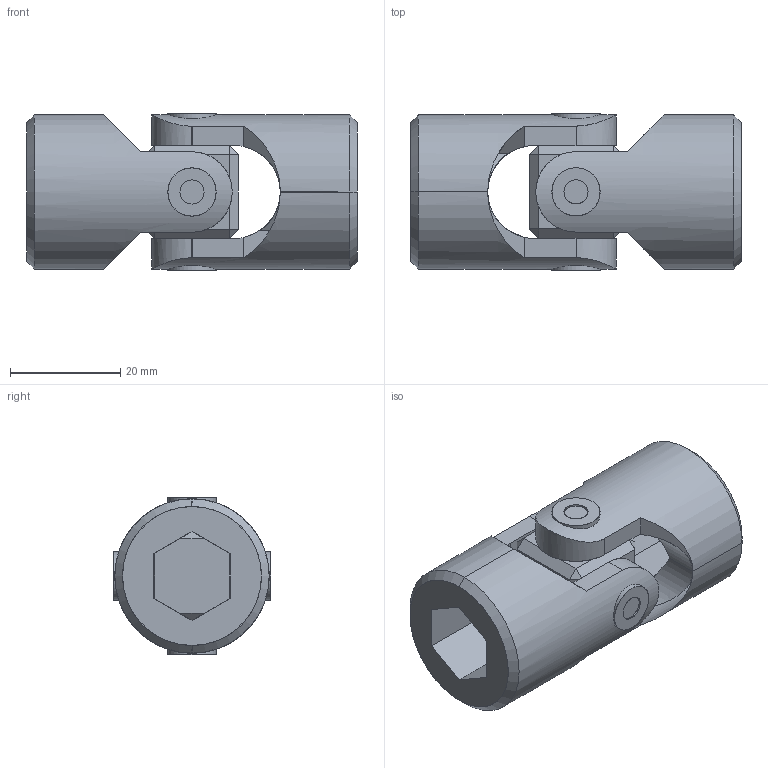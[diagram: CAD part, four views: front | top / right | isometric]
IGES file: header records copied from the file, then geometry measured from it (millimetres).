
Start section: SolidWorks IGES file using analytic representation for surfaces
Global section: file name: C:\Users\IanO\Desktop\R3690_v2\R3690_v2_20231020_IGES\R3690.014-HB.igs; native system: SolidWorks 2019; preprocessor: SolidWorks 2019; author: IanO; date: 231020.152715; units: millimetre
Bounding box: 60 x 28.56 x 28.56 mm (x, y, z)
Surface area: 12554.1 mm2 (no closed solid volume)
Topology: 0 solids, 0 shells, 112 faces, 2072 edges, 2072 vertices
Faces by surface type: bspline 68, revolution 44
